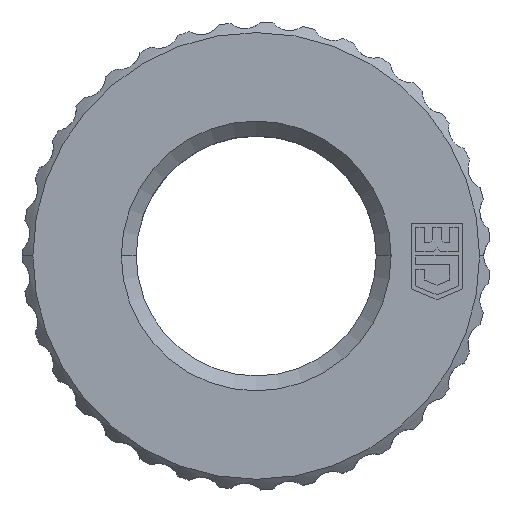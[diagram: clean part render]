
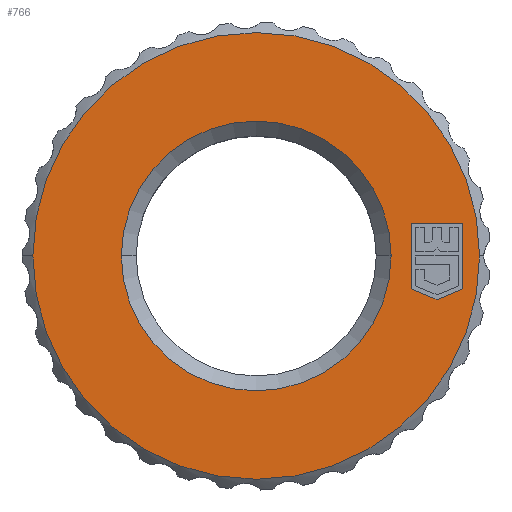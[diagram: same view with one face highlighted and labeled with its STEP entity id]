
A CAD part, top view. The second image highlights one B-rep face of the part: STEP entity #766.
In plain terms, the highlighted planar face has unit normal (0, 0, 1).
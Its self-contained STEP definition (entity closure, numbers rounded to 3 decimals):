
#504 = EDGE_CURVE ( 'NONE', #712, #707, #2284, .T. ) ;
#526 = EDGE_LOOP ( 'NONE', ( #527, #773, #942, #734, #775 ) ) ;
#527 = ORIENTED_EDGE ( 'NONE', *, *, #528, .T. ) ;
#528 = EDGE_CURVE ( 'NONE', #529, #706, #2378, .T. ) ;
#529 = VERTEX_POINT ( 'NONE', #2367 ) ;
#588 = ORIENTED_EDGE ( 'NONE', *, *, #504, .T. ) ;
#589 = EDGE_LOOP ( 'NONE', ( #590, #591 ) ) ;
#590 = ORIENTED_EDGE ( 'NONE', *, *, #856, .T. ) ;
#591 = ORIENTED_EDGE ( 'NONE', *, *, #592, .T. ) ;
#592 = EDGE_CURVE ( 'NONE', #851, #857, #2451, .T. ) ;
#706 = VERTEX_POINT ( 'NONE', #2648 ) ;
#707 = VERTEX_POINT ( 'NONE', #2647 ) ;
#712 = VERTEX_POINT ( 'NONE', #2641 ) ;
#731 = VERTEX_POINT ( 'NONE', #2765 ) ;
#732 = VERTEX_POINT ( 'NONE', #2764 ) ;
#733 = VERTEX_POINT ( 'NONE', #2763 ) ;
#734 = ORIENTED_EDGE ( 'NONE', *, *, #774, .T. ) ;
#766 = ADVANCED_FACE ( 'NONE', ( #2789, #2788, #2787 ), #2786, .F. ) ;
#773 = ORIENTED_EDGE ( 'NONE', *, *, #943, .T. ) ;
#774 = EDGE_CURVE ( 'NONE', #732, #733, #2771, .T. ) ;
#775 = ORIENTED_EDGE ( 'NONE', *, *, #776, .T. ) ;
#776 = EDGE_CURVE ( 'NONE', #733, #529, #2713, .T. ) ;
#851 = VERTEX_POINT ( 'NONE', #2817 ) ;
#856 = EDGE_CURVE ( 'NONE', #857, #851, #2942, .T. ) ;
#857 = VERTEX_POINT ( 'NONE', #2923 ) ;
#942 = ORIENTED_EDGE ( 'NONE', *, *, #944, .T. ) ;
#943 = EDGE_CURVE ( 'NONE', #706, #731, #3076, .T. ) ;
#944 = EDGE_CURVE ( 'NONE', #731, #732, #3077, .T. ) ;
#1003 = EDGE_LOOP ( 'NONE', ( #1004, #588 ) ) ;
#1004 = ORIENTED_EDGE ( 'NONE', *, *, #1005, .T. ) ;
#1005 = EDGE_CURVE ( 'NONE', #707, #712, #3181, .T. ) ;
#2247 = DIRECTION ( 'NONE',  ( 1., 0., 0. ) ) ;
#2248 = DIRECTION ( 'NONE',  ( 0., 0., 1. ) ) ;
#2249 = CARTESIAN_POINT ( 'NONE',  ( 0., 0., 0. ) ) ;
#2250 = AXIS2_PLACEMENT_3D ( 'NONE', #2249, #2248, #2247 ) ;
#2284 = CIRCLE ( 'NONE', #2250, 10.5 ) ;
#2339 = DIRECTION ( 'NONE',  ( -0.924, 0.383, 0. ) ) ;
#2340 = VECTOR ( 'NONE', #2339, 1000. ) ;
#2367 = CARTESIAN_POINT ( 'NONE',  ( 8.5, -2.052, 0. ) ) ;
#2378 = LINE ( 'NONE', #2381, #2340 ) ;
#2381 = CARTESIAN_POINT ( 'NONE',  ( 8.5, -2.052, 0. ) ) ;
#2444 = DIRECTION ( 'NONE',  ( -1., 0., 0. ) ) ;
#2450 = AXIS2_PLACEMENT_3D ( 'NONE', #2486, #2485, #2444 ) ;
#2451 = CIRCLE ( 'NONE', #2450, 6.34 ) ;
#2485 = DIRECTION ( 'NONE',  ( 0., 0., -1. ) ) ;
#2486 = CARTESIAN_POINT ( 'NONE',  ( 0., 0., 0. ) ) ;
#2641 = CARTESIAN_POINT ( 'NONE',  ( 10.5, 0., 0. ) ) ;
#2647 = CARTESIAN_POINT ( 'NONE',  ( -10.5, 0., 0. ) ) ;
#2648 = CARTESIAN_POINT ( 'NONE',  ( 7.285, -1.549, 0. ) ) ;
#2710 = DIRECTION ( 'NONE',  ( -0.924, -0.383, 0. ) ) ;
#2711 = VECTOR ( 'NONE', #2710, 1000. ) ;
#2712 = CARTESIAN_POINT ( 'NONE',  ( 8.5, -2.052, 0. ) ) ;
#2713 = LINE ( 'NONE', #2712, #2711 ) ;
#2763 = CARTESIAN_POINT ( 'NONE',  ( 9.715, -1.549, 0. ) ) ;
#2764 = CARTESIAN_POINT ( 'NONE',  ( 9.715, 1.548, 0. ) ) ;
#2765 = CARTESIAN_POINT ( 'NONE',  ( 7.285, 1.548, 0. ) ) ;
#2768 = DIRECTION ( 'NONE',  ( 0., -1., 0. ) ) ;
#2769 = VECTOR ( 'NONE', #2768, 1000. ) ;
#2770 = CARTESIAN_POINT ( 'NONE',  ( 9.715, 1.548, 0. ) ) ;
#2771 = LINE ( 'NONE', #2770, #2769 ) ;
#2781 = DIRECTION ( 'NONE',  ( -1., 0., 0. ) ) ;
#2782 = DIRECTION ( 'NONE',  ( 0., 0., -1. ) ) ;
#2783 = CARTESIAN_POINT ( 'NONE',  ( 0., 0., 0. ) ) ;
#2784 = AXIS2_PLACEMENT_3D ( 'NONE', #2783, #2782, #2781 ) ;
#2786 = PLANE ( 'NONE',  #2784 ) ;
#2787 = FACE_BOUND ( 'NONE', #526, .T. ) ;
#2788 = FACE_BOUND ( 'NONE', #589, .T. ) ;
#2789 = FACE_OUTER_BOUND ( 'NONE', #1003, .T. ) ;
#2817 = CARTESIAN_POINT ( 'NONE',  ( -6.34, 0., 0. ) ) ;
#2923 = CARTESIAN_POINT ( 'NONE',  ( 6.34, 0., 0. ) ) ;
#2924 = AXIS2_PLACEMENT_3D ( 'NONE', #2941, #2936, #2943 ) ;
#2936 = DIRECTION ( 'NONE',  ( 0., 0., -1. ) ) ;
#2941 = CARTESIAN_POINT ( 'NONE',  ( 0., 0., 0. ) ) ;
#2942 = CIRCLE ( 'NONE', #2924, 6.34 ) ;
#2943 = DIRECTION ( 'NONE',  ( -1., 0., 0. ) ) ;
#3073 = DIRECTION ( 'NONE',  ( 0., 1., 0. ) ) ;
#3074 = VECTOR ( 'NONE', #3073, 1000. ) ;
#3075 = CARTESIAN_POINT ( 'NONE',  ( 7.285, -1.549, 0. ) ) ;
#3076 = LINE ( 'NONE', #3075, #3074 ) ;
#3077 = LINE ( 'NONE', #3256, #3255 ) ;
#3174 = DIRECTION ( 'NONE',  ( 1., 0., 0. ) ) ;
#3175 = DIRECTION ( 'NONE',  ( 0., 0., 1. ) ) ;
#3176 = CARTESIAN_POINT ( 'NONE',  ( 0., 0., 0. ) ) ;
#3177 = AXIS2_PLACEMENT_3D ( 'NONE', #3176, #3175, #3174 ) ;
#3181 = CIRCLE ( 'NONE', #3177, 10.5 ) ;
#3254 = DIRECTION ( 'NONE',  ( 1., 0., 0. ) ) ;
#3255 = VECTOR ( 'NONE', #3254, 1000. ) ;
#3256 = CARTESIAN_POINT ( 'NONE',  ( 7.285, 1.548, 0. ) ) ;
